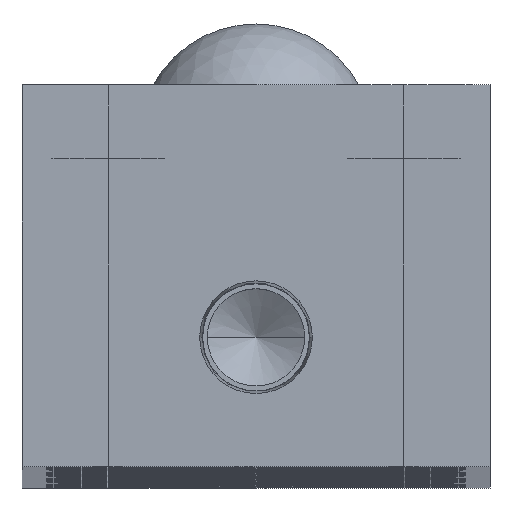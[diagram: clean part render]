
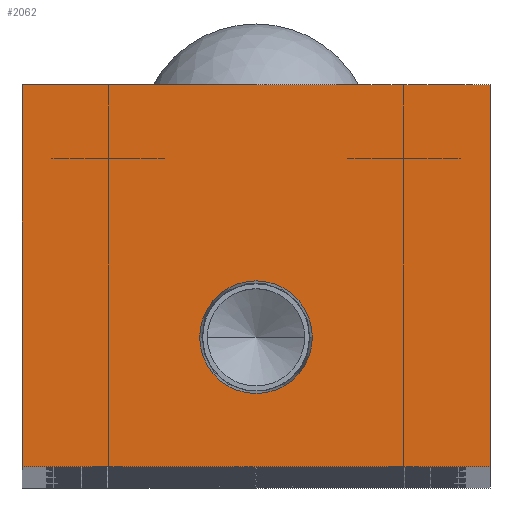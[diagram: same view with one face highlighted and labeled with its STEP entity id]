
A CAD part, top view. The second image highlights one B-rep face of the part: STEP entity #2062.
In plain terms, the highlighted planar face has unit normal (0, 0, 1).
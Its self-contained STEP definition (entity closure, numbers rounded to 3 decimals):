
#98 = CARTESIAN_POINT ( 'NONE',  ( 0., 0., 0. ) ) ;
#115 = DIRECTION ( 'NONE',  ( 0., -1., 0. ) ) ;
#606 = ORIENTED_EDGE ( 'NONE', *, *, #2423, .F. ) ;
#927 = ORIENTED_EDGE ( 'NONE', *, *, #14542, .T. ) ;
#2062 = ADVANCED_FACE ( 'NONE', ( #13476, #4015 ), #16077, .F. ) ;
#2423 = EDGE_CURVE ( 'NONE', #6495, #10113, #16184, .T. ) ;
#2668 = VECTOR ( 'NONE', #115, 1000. ) ;
#2826 = DIRECTION ( 'NONE',  ( 0., 0., 1. ) ) ;
#3113 = EDGE_LOOP ( 'NONE', ( #6444, #606 ) ) ;
#3116 = VERTEX_POINT ( 'NONE', #5736 ) ;
#3228 = CARTESIAN_POINT ( 'NONE',  ( -19., 31., 0. ) ) ;
#4015 = FACE_OUTER_BOUND ( 'NONE', #19464, .T. ) ;
#5736 = CARTESIAN_POINT ( 'NONE',  ( 19., 0., 0. ) ) ;
#5834 = ORIENTED_EDGE ( 'NONE', *, *, #19473, .T. ) ;
#6444 = ORIENTED_EDGE ( 'NONE', *, *, #17888, .F. ) ;
#6495 = VERTEX_POINT ( 'NONE', #18867 ) ;
#7250 = DIRECTION ( 'NONE',  ( -1., 0., 0. ) ) ;
#7266 = CARTESIAN_POINT ( 'NONE',  ( -19., 0., 0. ) ) ;
#7354 = CARTESIAN_POINT ( 'NONE',  ( -19., 31., 0. ) ) ;
#7981 = VERTEX_POINT ( 'NONE', #3228 ) ;
#9075 = VERTEX_POINT ( 'NONE', #22212 ) ;
#9076 = DIRECTION ( 'NONE',  ( 0., 0., 1. ) ) ;
#9126 = DIRECTION ( 'NONE',  ( -1., 0., 0. ) ) ;
#9382 = AXIS2_PLACEMENT_3D ( 'NONE', #13458, #2826, #15223 ) ;
#9930 = CIRCLE ( 'NONE', #9382, 4.574 ) ;
#10113 = VERTEX_POINT ( 'NONE', #14645 ) ;
#10720 = VECTOR ( 'NONE', #9126, 1000. ) ;
#12351 = CARTESIAN_POINT ( 'NONE',  ( -19., 0., 0. ) ) ;
#13458 = CARTESIAN_POINT ( 'NONE',  ( 0., 10.5, 0. ) ) ;
#13476 = FACE_BOUND ( 'NONE', #3113, .T. ) ;
#13652 = DIRECTION ( 'NONE',  ( 1., 0., 0. ) ) ;
#14542 = EDGE_CURVE ( 'NONE', #9075, #7981, #20149, .T. ) ;
#14645 = CARTESIAN_POINT ( 'NONE',  ( 4.574, 10.5, 0. ) ) ;
#15061 = AXIS2_PLACEMENT_3D ( 'NONE', #19682, #9076, #21495 ) ;
#15147 = DIRECTION ( 'NONE',  ( 0., 1., 0. ) ) ;
#15223 = DIRECTION ( 'NONE',  ( 1., 0., 0. ) ) ;
#16077 = PLANE ( 'NONE',  #21885 ) ;
#16184 = CIRCLE ( 'NONE', #15061, 4.574 ) ;
#16223 = LINE ( 'NONE', #7266, #2668 ) ;
#17165 = LINE ( 'NONE', #22491, #21884 ) ;
#17533 = VERTEX_POINT ( 'NONE', #12351 ) ;
#17577 = VECTOR ( 'NONE', #15147, 1000. ) ;
#17874 = DIRECTION ( 'NONE',  ( 0., 0., -1. ) ) ;
#17888 = EDGE_CURVE ( 'NONE', #10113, #6495, #9930, .T. ) ;
#18867 = CARTESIAN_POINT ( 'NONE',  ( -4.574, 10.5, 0. ) ) ;
#19464 = EDGE_LOOP ( 'NONE', ( #21264, #5834, #19699, #927 ) ) ;
#19473 = EDGE_CURVE ( 'NONE', #17533, #3116, #17165, .T. ) ;
#19682 = CARTESIAN_POINT ( 'NONE',  ( 0., 10.5, 0. ) ) ;
#19699 = ORIENTED_EDGE ( 'NONE', *, *, #22414, .T. ) ;
#20149 = LINE ( 'NONE', #7354, #10720 ) ;
#21264 = ORIENTED_EDGE ( 'NONE', *, *, #21279, .T. ) ;
#21279 = EDGE_CURVE ( 'NONE', #7981, #17533, #16223, .T. ) ;
#21495 = DIRECTION ( 'NONE',  ( 1., 0., 0. ) ) ;
#21884 = VECTOR ( 'NONE', #13652, 1000. ) ;
#21885 = AXIS2_PLACEMENT_3D ( 'NONE', #98, #17874, #7250 ) ;
#22209 = CARTESIAN_POINT ( 'NONE',  ( 19., 31., 0. ) ) ;
#22212 = CARTESIAN_POINT ( 'NONE',  ( 19., 31., 0. ) ) ;
#22324 = LINE ( 'NONE', #22209, #17577 ) ;
#22414 = EDGE_CURVE ( 'NONE', #3116, #9075, #22324, .T. ) ;
#22491 = CARTESIAN_POINT ( 'NONE',  ( 19., 0., 0. ) ) ;
